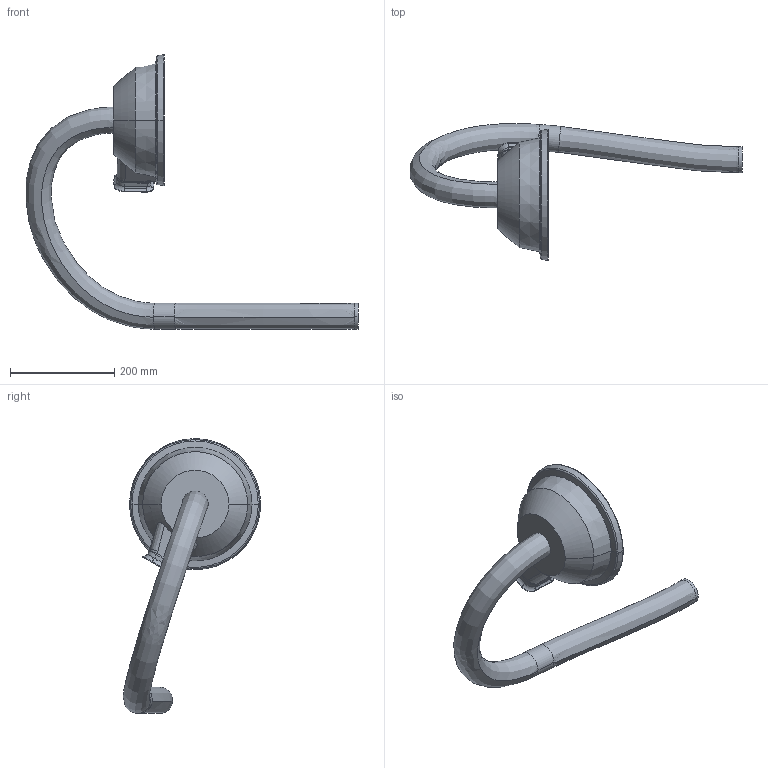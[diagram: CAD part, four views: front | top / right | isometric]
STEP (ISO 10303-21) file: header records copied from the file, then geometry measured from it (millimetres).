
FILE_DESCRIPTION (( 'STEP AP214' ), '1' );
FILE_NAME ('IRB6760-MH3_All_OC_00_LINK03b_CABLE.step', '2025-09-30T13:11:57', ( '' ), ( '' ), 'SwSTEP 2.0', 'SolidWorks 2024', '' );
FILE_SCHEMA (( 'AUTOMOTIVE_DESIGN' ));
Length unit declared in the file: millimetre
Products named in the file (1): IRB6760-MH3_All_OC_00_LINK03b_CABLE
Bounding box: 636.18 x 263.11 x 526.62 mm (x, y, z)
Volume: 5172296.5 mm3; surface area: 306736.8 mm2
Topology: 1 solids, 1 shells, 110 faces, 279 edges, 172 vertices
Faces by surface type: bspline 35, cylinder 28, plane 18, torus 15, cone 14
Entity records: 7138 total; most frequent: CARTESIAN_POINT 4783, ORIENTED_EDGE 558, DIRECTION 405, EDGE_CURVE 279, VERTEX_POINT 172, AXIS2_PLACEMENT_3D 169, EDGE_LOOP 111, FACE_OUTER_BOUND 110
